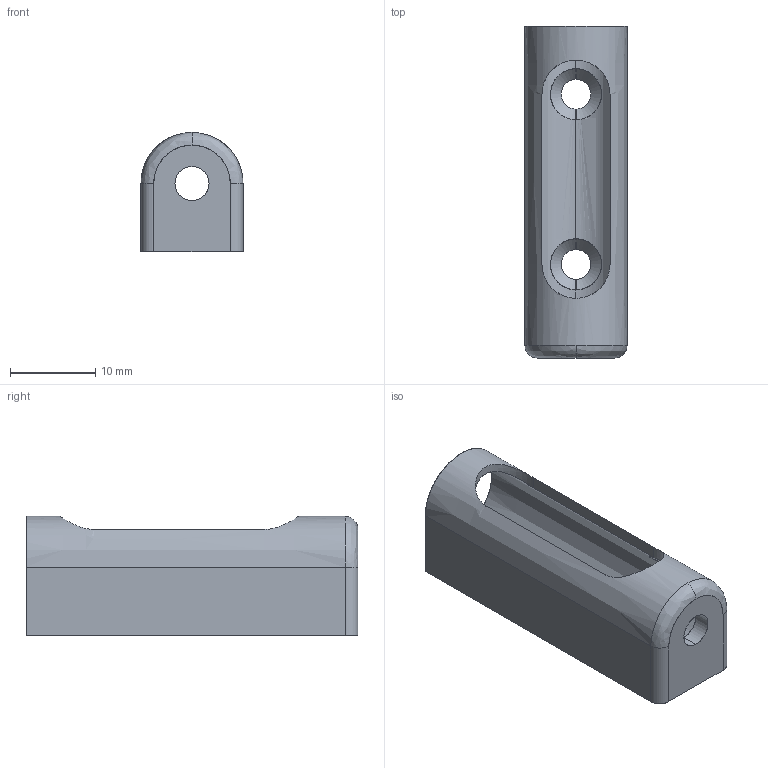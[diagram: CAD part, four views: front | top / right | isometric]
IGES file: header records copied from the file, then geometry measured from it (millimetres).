
Start section: SolidWorks IGES file using analytic representation for surfaces
Bounding box: 12 x 39 x 14 mm (x, y, z)
Surface area: 3362.8 mm2 (no closed solid volume)
Topology: 0 solids, 0 shells, 99 faces, 1415 edges, 1403 vertices
Faces by surface type: revolution 58, bspline 41
